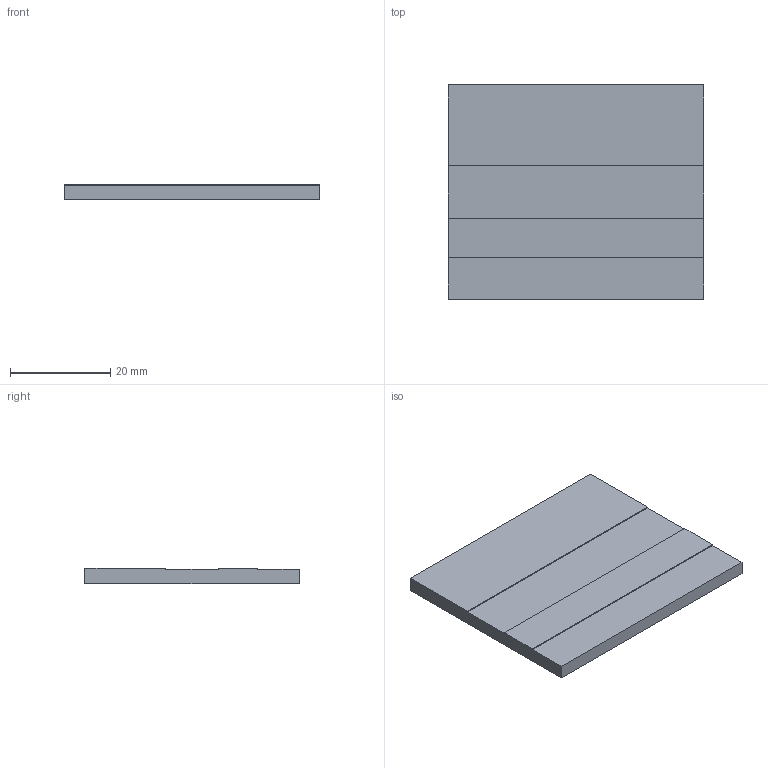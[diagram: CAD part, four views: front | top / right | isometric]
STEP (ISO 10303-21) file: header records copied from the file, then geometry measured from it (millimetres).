
FILE_DESCRIPTION(('CATIA V5 STEP Exchange'),'2;1');
FILE_NAME('D:\姚明阳\1、工装图纸\AGZ100\AGZ100.02_V1.stp','2023-06-06T05:43:12+00:00',('none'),('none'),'CATIA Version 5 Release 21 GA (IN-10)','CATIA V5 STEP AP214','none');
FILE_SCHEMA(('AUTOMOTIVE_DESIGN { 1 0 10303 214 1 1 1 1 }'));
Length unit declared in the file: millimetre
Products named in the file (1): Part1
Bounding box: 51 x 42.8 x 3 mm (x, y, z)
Volume: 6357.1 mm3; surface area: 4941.3 mm2
Topology: 1 solids, 1 shells, 12 faces, 30 edges, 20 vertices
Faces by surface type: plane 12
Entity records: 366 total; most frequent: CARTESIAN_POINT 61, ORIENTED_EDGE 60, DIRECTION 50, VECTOR 30, EDGE_CURVE 30, LINE 30, VERTEX_POINT 20, ADVANCED_FACE 12
